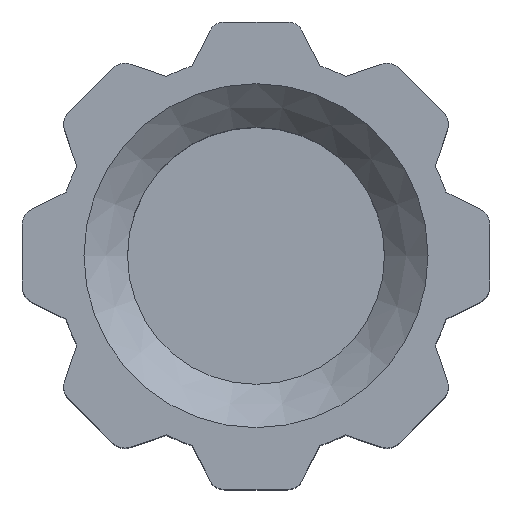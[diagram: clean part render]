
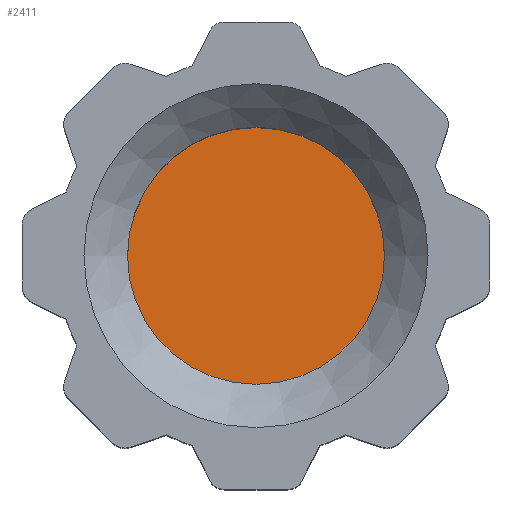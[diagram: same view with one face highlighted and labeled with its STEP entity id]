
A CAD part, top view. The second image highlights one B-rep face of the part: STEP entity #2411.
In plain terms, the highlighted planar face has unit normal (0, 0, 1).
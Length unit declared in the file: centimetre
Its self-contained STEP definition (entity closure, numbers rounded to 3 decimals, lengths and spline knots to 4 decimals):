
#696=PLANE($,#2598);
#869=FACE_OUTER_BOUND($,#1020,.T.);
#1020=EDGE_LOOP($,(#2232));
#1066=CIRCLE($,#2579,0.385);
#1260=VERTEX_POINT($,#3887);
#1570=EDGE_CURVE($,#1260,#1260,#1066,.T.);
#2232=ORIENTED_EDGE($,*,*,#1570,.F.);
#2411=ADVANCED_FACE($,(#869),#696,.T.);
#2579=AXIS2_PLACEMENT_3D($,#3888,#3193,#3194);
#2598=AXIS2_PLACEMENT_3D($,#3924,#3248,#3249);
#3193=DIRECTION('center_axis',(0.,0.,-1.));
#3194=DIRECTION('ref_axis',(-1.,0.,0.));
#3248=DIRECTION('center_axis',(0.,0.,1.));
#3249=DIRECTION('ref_axis',(1.,0.,0.));
#3887=CARTESIAN_POINT('',(-3.0844,13.4826,0.895));
#3888=CARTESIAN_POINT('Origin',(-3.4694,13.4826,0.895));
#3924=CARTESIAN_POINT('Origin',(-3.4694,13.4826,0.895));
